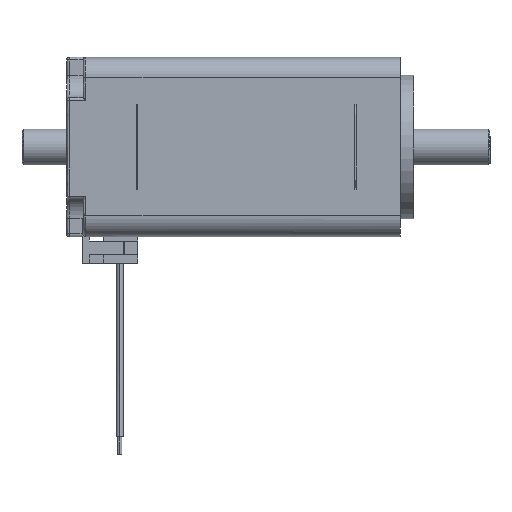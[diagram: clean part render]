
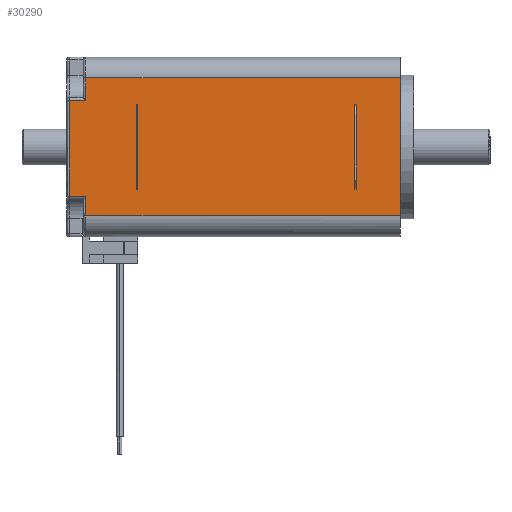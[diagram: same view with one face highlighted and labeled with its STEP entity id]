
A CAD part, left-side view. The second image highlights one B-rep face of the part: STEP entity #30290.
In plain terms, the highlighted planar face has unit normal (-1, 0, 0).
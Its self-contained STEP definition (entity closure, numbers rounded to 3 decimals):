
#20965=CARTESIAN_POINT('',(-10.,0.675,4.583));
#20966=VERTEX_POINT('',#20965);
#20974=CARTESIAN_POINT('',(-10.,0.675,-4.583));
#20975=VERTEX_POINT('',#20974);
#20976=CARTESIAN_POINT('',(-10.,0.675,4.583));
#20977=DIRECTION('',(0.,0.,-1.));
#20978=VECTOR('',#20977,9.165);
#20979=LINE('',#20976,#20978);
#20980=EDGE_CURVE('',#20966,#20975,#20979,.T.);
#21679=CARTESIAN_POINT('',(-10.,0.49,4.583));
#21680=VERTEX_POINT('',#21679);
#21681=CARTESIAN_POINT('',(-10.,0.49,4.583));
#21682=DIRECTION('',(0.,1.,0.));
#21683=VECTOR('',#21682,0.185);
#21684=LINE('',#21681,#21683);
#21685=EDGE_CURVE('',#21680,#20966,#21684,.T.);
#21728=CARTESIAN_POINT('',(-10.,0.49,-4.583));
#21729=VERTEX_POINT('',#21728);
#21763=CARTESIAN_POINT('',(-10.,0.675,-4.583));
#21764=DIRECTION('',(0.,-1.,0.));
#21765=VECTOR('',#21764,0.185);
#21766=LINE('',#21763,#21765);
#21767=EDGE_CURVE('',#20975,#21729,#21766,.T.);
#22006=CARTESIAN_POINT('',(-10.,0.49,-4.583));
#22007=DIRECTION('',(0.,0.,1.));
#22008=VECTOR('',#22007,9.165);
#22009=LINE('',#22006,#22008);
#22010=EDGE_CURVE('',#21729,#21680,#22009,.T.);
#22473=CARTESIAN_POINT('',(-10.,-4.45,7.7));
#22474=VERTEX_POINT('',#22473);
#22482=CARTESIAN_POINT('',(-10.,-4.45,-7.7));
#22483=VERTEX_POINT('',#22482);
#22484=CARTESIAN_POINT('',(-10.,-4.45,7.7));
#22485=DIRECTION('',(0.,0.,-1.));
#22486=VECTOR('',#22485,15.4);
#22487=LINE('',#22484,#22486);
#22488=EDGE_CURVE('',#22474,#22483,#22487,.T.);
#28573=CARTESIAN_POINT('',(-10.,24.825,-4.583));
#28574=VERTEX_POINT('',#28573);
#28582=CARTESIAN_POINT('',(-10.,24.825,4.583));
#28583=VERTEX_POINT('',#28582);
#28584=CARTESIAN_POINT('',(-10.,24.825,-4.583));
#28585=DIRECTION('',(0.,0.,1.));
#28586=VECTOR('',#28585,9.165);
#28587=LINE('',#28584,#28586);
#28588=EDGE_CURVE('',#28574,#28583,#28587,.T.);
#29517=CARTESIAN_POINT('',(-10.,30.62,7.7));
#29518=VERTEX_POINT('',#29517);
#29526=CARTESIAN_POINT('',(-10.,30.62,7.7));
#29527=DIRECTION('',(0.,-1.,0.));
#29528=VECTOR('',#29527,35.07);
#29529=LINE('',#29526,#29528);
#29530=EDGE_CURVE('',#29518,#22474,#29529,.T.);
#29547=CARTESIAN_POINT('',(-10.,30.62,-7.7));
#29548=VERTEX_POINT('',#29547);
#29564=CARTESIAN_POINT('',(-10.,-4.45,-7.7));
#29565=DIRECTION('',(0.,1.,0.));
#29566=VECTOR('',#29565,35.07);
#29567=LINE('',#29564,#29566);
#29568=EDGE_CURVE('',#22483,#29548,#29567,.T.);
#29782=CARTESIAN_POINT('',(-10.,25.01,-4.583));
#29783=VERTEX_POINT('',#29782);
#29791=CARTESIAN_POINT('',(-10.,25.01,-4.583));
#29792=DIRECTION('',(0.,-1.,0.));
#29793=VECTOR('',#29792,0.185);
#29794=LINE('',#29791,#29793);
#29795=EDGE_CURVE('',#29783,#28574,#29794,.T.);
#29807=CARTESIAN_POINT('',(-10.,25.01,4.583));
#29808=VERTEX_POINT('',#29807);
#29818=CARTESIAN_POINT('',(-10.,24.825,4.583));
#29819=DIRECTION('',(0.,1.,0.));
#29820=VECTOR('',#29819,0.185);
#29821=LINE('',#29818,#29820);
#29822=EDGE_CURVE('',#28583,#29808,#29821,.T.);
#30080=CARTESIAN_POINT('',(-10.,25.01,4.583));
#30081=DIRECTION('',(0.,0.,-1.));
#30082=VECTOR('',#30081,9.165);
#30083=LINE('',#30080,#30082);
#30084=EDGE_CURVE('',#29808,#29783,#30083,.T.);
#30229=CARTESIAN_POINT('',(-10.,13.65,0.));
#30230=DIRECTION('',(0.,0.,-1.));
#30231=DIRECTION('',(-1.,-0.,-0.));
#30232=AXIS2_PLACEMENT_3D('',#30229,#30231,#30230);
#30233=PLANE('',#30232);
#30234=CARTESIAN_POINT('',(-10.,30.62,5.2));
#30235=VERTEX_POINT('',#30234);
#30236=CARTESIAN_POINT('',(-10.,30.62,7.7));
#30237=DIRECTION('',(0.,0.,-1.));
#30238=VECTOR('',#30237,2.5);
#30239=LINE('',#30236,#30238);
#30240=EDGE_CURVE('',#29518,#30235,#30239,.T.);
#30241=ORIENTED_EDGE('E2758',*,*,#30240,.T.);
#30242=CARTESIAN_POINT('',(-10.,32.45,5.2));
#30243=VERTEX_POINT('',#30242);
#30244=CARTESIAN_POINT('',(-10.,30.62,5.2));
#30245=DIRECTION('',(0.,1.,0.));
#30246=VECTOR('',#30245,1.83);
#30247=LINE('',#30244,#30246);
#30248=EDGE_CURVE('',#30235,#30243,#30247,.T.);
#30249=ORIENTED_EDGE('E2759',*,*,#30248,.T.);
#30250=CARTESIAN_POINT('',(-10.,32.45,-5.5));
#30251=VERTEX_POINT('',#30250);
#30252=CARTESIAN_POINT('',(-10.,32.45,5.2));
#30253=DIRECTION('',(0.,0.,-1.));
#30254=VECTOR('',#30253,10.7);
#30255=LINE('',#30252,#30254);
#30256=EDGE_CURVE('',#30243,#30251,#30255,.T.);
#30257=ORIENTED_EDGE('E2760',*,*,#30256,.T.);
#30258=CARTESIAN_POINT('',(-10.,30.62,-5.5));
#30259=VERTEX_POINT('',#30258);
#30260=CARTESIAN_POINT('',(-10.,32.45,-5.5));
#30261=DIRECTION('',(0.,-1.,0.));
#30262=VECTOR('',#30261,1.83);
#30263=LINE('',#30260,#30262);
#30264=EDGE_CURVE('',#30251,#30259,#30263,.T.);
#30265=ORIENTED_EDGE('E2761',*,*,#30264,.T.);
#30266=CARTESIAN_POINT('',(-10.,30.62,-5.5));
#30267=CARTESIAN_POINT('',(-10.,30.62,-5.704));
#30268=CARTESIAN_POINT('',(-10.,30.62,-6.804));
#30269=CARTESIAN_POINT('',(-10.,30.62,-7.7));
#30270=B_SPLINE_CURVE_WITH_KNOTS('',2,(#30266,#30267,#30268,#30269),.UNSPECIFIED.,.F.,.U.,(3,1,3),(0.,0.026,0.139),.UNSPECIFIED.);
#30271=EDGE_CURVE('',#30259,#29548,#30270,.T.);
#30272=ORIENTED_EDGE('E2762',*,*,#30271,.T.);
#30273=ORIENTED_EDGE('E2762',*,*,#29568,.F.);
#30274=ORIENTED_EDGE('E2762',*,*,#22488,.F.);
#30275=ORIENTED_EDGE('E2762',*,*,#29530,.F.);
#30276=EDGE_LOOP('',(#30241,#30249,#30257,#30265,#30272,#30273,#30274,#30275));
#30277=FACE_OUTER_BOUND('',#30276,.T.);
#30278=ORIENTED_EDGE('',*,*,#28588,.F.);
#30279=ORIENTED_EDGE('',*,*,#29795,.F.);
#30280=ORIENTED_EDGE('',*,*,#30084,.F.);
#30281=ORIENTED_EDGE('',*,*,#29822,.F.);
#30282=EDGE_LOOP('',(#30278,#30279,#30280,#30281));
#30283=FACE_BOUND('',#30282,.T.);
#30284=ORIENTED_EDGE('',*,*,#20980,.F.);
#30285=ORIENTED_EDGE('',*,*,#21685,.F.);
#30286=ORIENTED_EDGE('',*,*,#22010,.F.);
#30287=ORIENTED_EDGE('',*,*,#21767,.F.);
#30288=EDGE_LOOP('',(#30284,#30285,#30286,#30287));
#30289=FACE_BOUND('',#30288,.T.);
#30290=ADVANCED_FACE('F795',(#30277,#30283,#30289),#30233,.T.);
